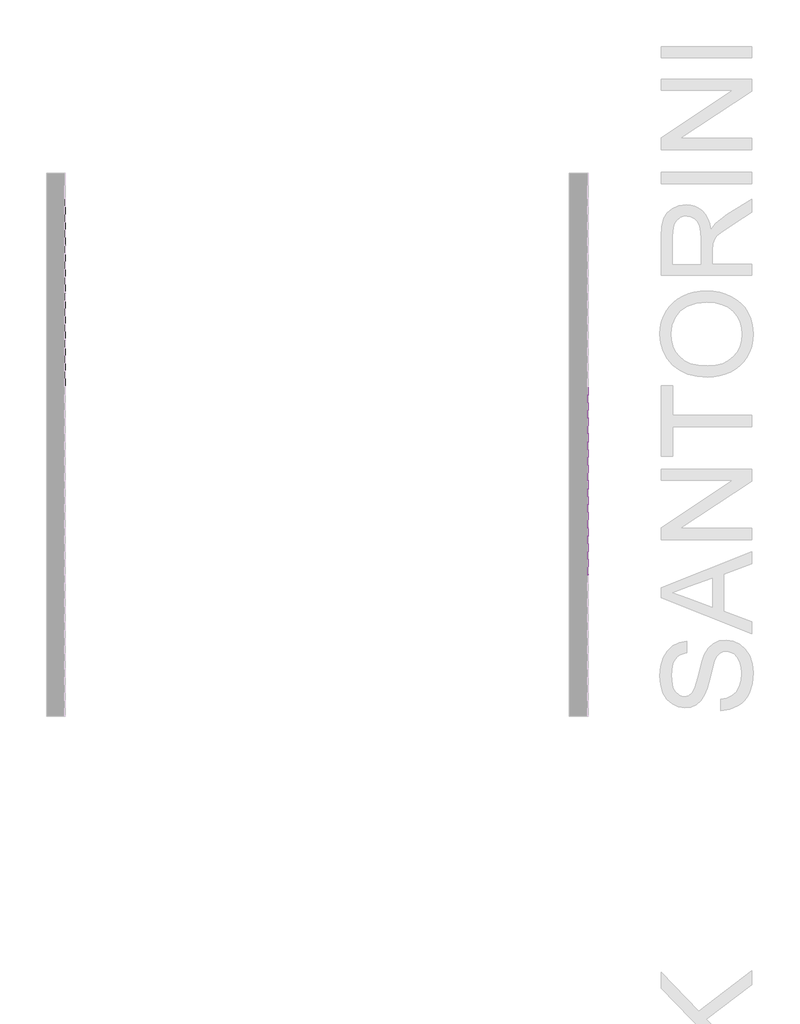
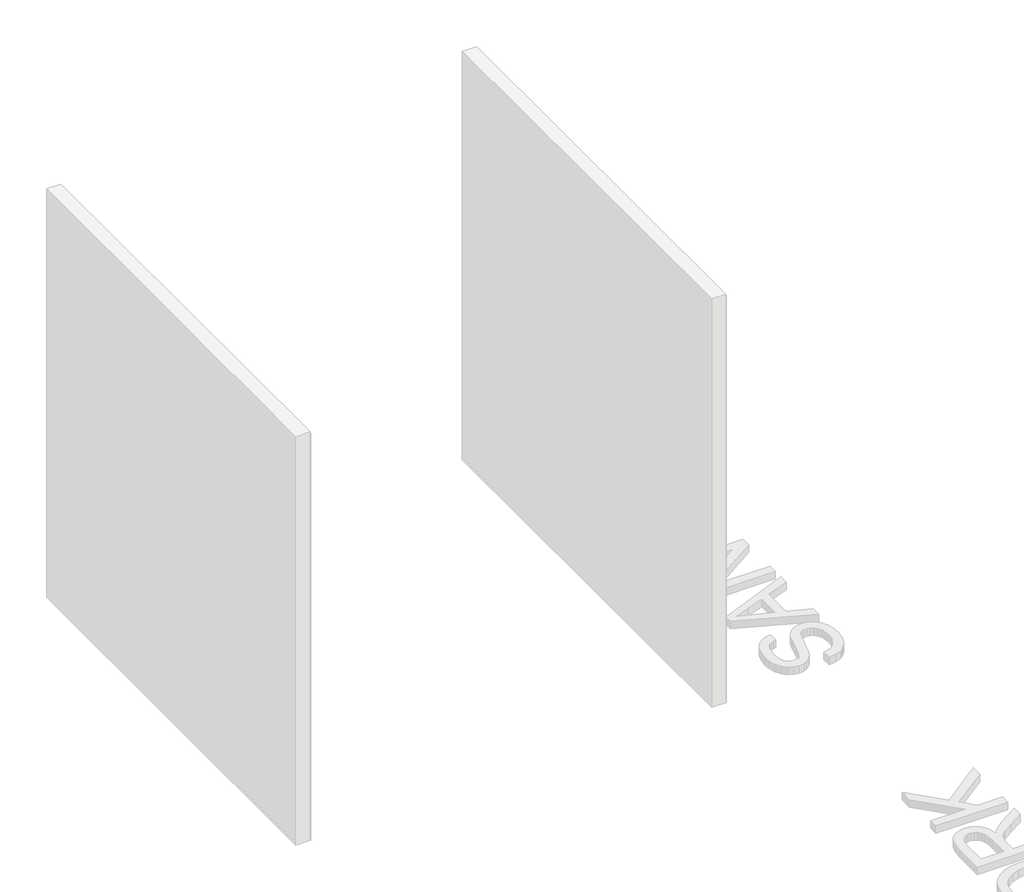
# One storey, part 29 of 45: 147 proxies.
"""IFC4 building model written with IfcOpenShell, lengths in millimetres."""

from ifc_helpers import new_model, si_unit, origin, place, context, project, spatial, transform, mapped, element, save
from components import generic_models_ab0f2c30

model = new_model("IFC4")

# Units and contexts
model_context = context("Model", 3, world=origin())
ifc_project = project(units=[si_unit("LENGTHUNIT", "METRE", prefix="MILLI")], contexts=[model_context])

# Site, building, storey
site = spatial("IfcSite", under=ifc_project)
building = spatial("IfcBuilding", under=site)
storey = spatial("IfcBuildingStorey", under=building, Name="PORTOBELLO - SHOWROOM", Elevation=0.0)

# Proxies
placement = place(None, origin())
generic_models_shape = generic_models_ab0f2c30(model_context)
element("IfcBuildingElementProxy", 1, Name="PBSHOP - HORIZONTES SANTORINI 6,5X23 : SANTORINI", ObjectType="PBSHOP - HORIZONTES SANTORINI 6,5X23 : SANTORINI", at=placement, inside=storey, context=model_context, shape_type="MappedRepresentation", body=[
    mapped(generic_models_shape, transform((69111.8826867, 11896.0312463, 2104.5), x_axis=(0.0, 0.0, 1.0), y_axis=(0.0, -1.0, 0.0), z_axis=(1.0, 0.0, 0.0))),
])
element("IfcBuildingElementProxy", 2, Name="PBSHOP - HORIZONTES SANTORINI 6,5X23 : SANTORINI", ObjectType="PBSHOP - HORIZONTES SANTORINI 6,5X23 : SANTORINI", at=placement, inside=storey, context=model_context, shape_type="MappedRepresentation", body=[
    mapped(generic_models_shape, transform((69111.8826867, 11194.0312463, 2173.5), x_axis=(0.0, 0.0, 1.0), y_axis=(0.0, -1.0, 0.0), z_axis=(1.0, 0.0, 0.0))),
])
element("IfcBuildingElementProxy", 3, Name="PBSHOP - HORIZONTES SANTORINI 6,5X23 : SANTORINI", ObjectType="PBSHOP - HORIZONTES SANTORINI 6,5X23 : SANTORINI", at=placement, inside=storey, context=model_context, shape_type="MappedRepresentation", body=[
    mapped(generic_models_shape, transform((69111.8826867, 11428.0312463, 2173.5), x_axis=(0.0, 0.0, 1.0), y_axis=(0.0, -1.0, 0.0), z_axis=(1.0, 0.0, 0.0))),
])
element("IfcBuildingElementProxy", 4, Name="PBSHOP - HORIZONTES SANTORINI 6,5X23 : SANTORINI", ObjectType="PBSHOP - HORIZONTES SANTORINI 6,5X23 : SANTORINI", at=placement, inside=storey, context=model_context, shape_type="MappedRepresentation", body=[
    mapped(generic_models_shape, transform((69111.8826867, 11662.0312463, 2173.5), x_axis=(0.0, 0.0, 1.0), y_axis=(0.0, -1.0, 0.0), z_axis=(1.0, 0.0, 0.0))),
])
element("IfcBuildingElementProxy", 5, Name="PBSHOP - HORIZONTES SANTORINI 6,5X23 : SANTORINI", ObjectType="PBSHOP - HORIZONTES SANTORINI 6,5X23 : SANTORINI", at=placement, inside=storey, context=model_context, shape_type="MappedRepresentation", body=[
    mapped(generic_models_shape, transform((69111.8826867, 11896.0312463, 2173.5), x_axis=(0.0, 0.0, 1.0), y_axis=(0.0, -1.0, 0.0), z_axis=(1.0, 0.0, 0.0))),
])
element("IfcBuildingElementProxy", 6, Name="PBSHOP - HORIZONTES SANTORINI 6,5X23 : SANTORINI", ObjectType="PBSHOP - HORIZONTES SANTORINI 6,5X23 : SANTORINI", at=placement, inside=storey, context=model_context, shape_type="MappedRepresentation", body=[
    mapped(generic_models_shape, transform((69111.8826867, 11194.0312463, 2242.5), x_axis=(0.0, 0.0, 1.0), y_axis=(0.0, -1.0, 0.0), z_axis=(1.0, 0.0, 0.0))),
])
element("IfcBuildingElementProxy", 7, Name="PBSHOP - HORIZONTES SANTORINI 6,5X23 : SANTORINI", ObjectType="PBSHOP - HORIZONTES SANTORINI 6,5X23 : SANTORINI", at=placement, inside=storey, context=model_context, shape_type="MappedRepresentation", body=[
    mapped(generic_models_shape, transform((69111.8826867, 11428.0312463, 2242.5), x_axis=(0.0, 0.0, 1.0), y_axis=(0.0, -1.0, 0.0), z_axis=(1.0, 0.0, 0.0))),
])
element("IfcBuildingElementProxy", 8, Name="PBSHOP - HORIZONTES SANTORINI 6,5X23 : SANTORINI", ObjectType="PBSHOP - HORIZONTES SANTORINI 6,5X23 : SANTORINI", at=placement, inside=storey, context=model_context, shape_type="MappedRepresentation", body=[
    mapped(generic_models_shape, transform((69111.8826867, 11662.0312463, 2242.5), x_axis=(0.0, 0.0, 1.0), y_axis=(0.0, -1.0, 0.0), z_axis=(1.0, 0.0, 0.0))),
])
element("IfcBuildingElementProxy", 9, Name="PBSHOP - HORIZONTES SANTORINI 6,5X23 : SANTORINI", ObjectType="PBSHOP - HORIZONTES SANTORINI 6,5X23 : SANTORINI", at=placement, inside=storey, context=model_context, shape_type="MappedRepresentation", body=[
    mapped(generic_models_shape, transform((69111.8826867, 11896.0312463, 2242.5), x_axis=(0.0, 0.0, 1.0), y_axis=(0.0, -1.0, 0.0), z_axis=(1.0, 0.0, 0.0))),
])
element("IfcBuildingElementProxy", 10, Name="PBSHOP - HORIZONTES SANTORINI 6,5X23 : SANTORINI", ObjectType="PBSHOP - HORIZONTES SANTORINI 6,5X23 : SANTORINI", at=placement, inside=storey, context=model_context, shape_type="MappedRepresentation", body=[
    mapped(generic_models_shape, transform((69111.8826867, 11194.0312463, 2311.5), x_axis=(0.0, 0.0, 1.0), y_axis=(0.0, -1.0, 0.0), z_axis=(1.0, 0.0, 0.0))),
])
element("IfcBuildingElementProxy", 11, Name="PBSHOP - HORIZONTES SANTORINI 6,5X23 : SANTORINI", ObjectType="PBSHOP - HORIZONTES SANTORINI 6,5X23 : SANTORINI", at=placement, inside=storey, context=model_context, shape_type="MappedRepresentation", body=[
    mapped(generic_models_shape, transform((69111.8826867, 11428.0312463, 2311.5), x_axis=(0.0, 0.0, 1.0), y_axis=(0.0, -1.0, 0.0), z_axis=(1.0, 0.0, 0.0))),
])
element("IfcBuildingElementProxy", 12, Name="PBSHOP - HORIZONTES SANTORINI 6,5X23 : SANTORINI", ObjectType="PBSHOP - HORIZONTES SANTORINI 6,5X23 : SANTORINI", at=placement, inside=storey, context=model_context, shape_type="MappedRepresentation", body=[
    mapped(generic_models_shape, transform((69111.8826867, 11662.0312463, 2311.5), x_axis=(0.0, 0.0, 1.0), y_axis=(0.0, -1.0, 0.0), z_axis=(1.0, 0.0, 0.0))),
])
element("IfcBuildingElementProxy", 13, Name="PBSHOP - HORIZONTES SANTORINI 6,5X23 : SANTORINI", ObjectType="PBSHOP - HORIZONTES SANTORINI 6,5X23 : SANTORINI", at=placement, inside=storey, context=model_context, shape_type="MappedRepresentation", body=[
    mapped(generic_models_shape, transform((69111.8826867, 11896.0312463, 2311.5), x_axis=(0.0, 0.0, 1.0), y_axis=(0.0, -1.0, 0.0), z_axis=(1.0, 0.0, 0.0))),
])
element("IfcBuildingElementProxy", 14, Name="PBSHOP - HORIZONTES SANTORINI 6,5X23 : SANTORINI", ObjectType="PBSHOP - HORIZONTES SANTORINI 6,5X23 : SANTORINI", at=placement, inside=storey, context=model_context, shape_type="MappedRepresentation", body=[
    mapped(generic_models_shape, transform((69111.8826867, 11194.0312463, 2380.5), x_axis=(0.0, 0.0, 1.0), y_axis=(0.0, -1.0, 0.0), z_axis=(1.0, 0.0, 0.0))),
])
element("IfcBuildingElementProxy", 15, Name="PBSHOP - HORIZONTES SANTORINI 6,5X23 : SANTORINI", ObjectType="PBSHOP - HORIZONTES SANTORINI 6,5X23 : SANTORINI", at=placement, inside=storey, context=model_context, shape_type="MappedRepresentation", body=[
    mapped(generic_models_shape, transform((69111.8826867, 11428.0312463, 2380.5), x_axis=(0.0, 0.0, 1.0), y_axis=(0.0, -1.0, 0.0), z_axis=(1.0, 0.0, 0.0))),
])
element("IfcBuildingElementProxy", 16, Name="PBSHOP - HORIZONTES SANTORINI 6,5X23 : SANTORINI", ObjectType="PBSHOP - HORIZONTES SANTORINI 6,5X23 : SANTORINI", at=placement, inside=storey, context=model_context, shape_type="MappedRepresentation", body=[
    mapped(generic_models_shape, transform((69111.8826867, 11662.0312463, 2380.5), x_axis=(0.0, 0.0, 1.0), y_axis=(0.0, -1.0, 0.0), z_axis=(1.0, 0.0, 0.0))),
])
element("IfcBuildingElementProxy", 17, Name="PBSHOP - HORIZONTES SANTORINI 6,5X23 : SANTORINI", ObjectType="PBSHOP - HORIZONTES SANTORINI 6,5X23 : SANTORINI", at=placement, inside=storey, context=model_context, shape_type="MappedRepresentation", body=[
    mapped(generic_models_shape, transform((69111.8826867, 11896.0312463, 2380.5), x_axis=(0.0, 0.0, 1.0), y_axis=(0.0, -1.0, 0.0), z_axis=(1.0, 0.0, 0.0))),
])
element("IfcBuildingElementProxy", 18, Name="PBSHOP - HORIZONTES SANTORINI 6,5X23 : SANTORINI", ObjectType="PBSHOP - HORIZONTES SANTORINI 6,5X23 : SANTORINI", at=placement, inside=storey, context=model_context, shape_type="MappedRepresentation", body=[
    mapped(generic_models_shape, transform((69111.8826867, 11194.0312463, 2449.5), x_axis=(0.0, 0.0, 1.0), y_axis=(0.0, -1.0, 0.0), z_axis=(1.0, 0.0, 0.0))),
])
element("IfcBuildingElementProxy", 19, Name="PBSHOP - HORIZONTES SANTORINI 6,5X23 : SANTORINI", ObjectType="PBSHOP - HORIZONTES SANTORINI 6,5X23 : SANTORINI", at=placement, inside=storey, context=model_context, shape_type="MappedRepresentation", body=[
    mapped(generic_models_shape, transform((69111.8826867, 11428.0312463, 2449.5), x_axis=(0.0, 0.0, 1.0), y_axis=(0.0, -1.0, 0.0), z_axis=(1.0, 0.0, 0.0))),
])
element("IfcBuildingElementProxy", 20, Name="PBSHOP - HORIZONTES SANTORINI 6,5X23 : SANTORINI", ObjectType="PBSHOP - HORIZONTES SANTORINI 6,5X23 : SANTORINI", at=placement, inside=storey, context=model_context, shape_type="MappedRepresentation", body=[
    mapped(generic_models_shape, transform((69111.8826867, 11662.0312463, 2449.5), x_axis=(0.0, 0.0, 1.0), y_axis=(0.0, -1.0, 0.0), z_axis=(1.0, 0.0, 0.0))),
])
element("IfcBuildingElementProxy", 21, Name="PBSHOP - HORIZONTES SANTORINI 6,5X23 : SANTORINI", ObjectType="PBSHOP - HORIZONTES SANTORINI 6,5X23 : SANTORINI", at=placement, inside=storey, context=model_context, shape_type="MappedRepresentation", body=[
    mapped(generic_models_shape, transform((69111.8826867, 11896.0312463, 2449.5), x_axis=(0.0, 0.0, 1.0), y_axis=(0.0, -1.0, 0.0), z_axis=(1.0, 0.0, 0.0))),
])
element("IfcBuildingElementProxy", 22, Name="PBSHOP - HORIZONTES SANTORINI 6,5X23 : SANTORINI", ObjectType="PBSHOP - HORIZONTES SANTORINI 6,5X23 : SANTORINI", at=placement, inside=storey, context=model_context, shape_type="MappedRepresentation", body=[
    mapped(generic_models_shape, transform((69111.8826867, 11194.0312463, 2518.5), x_axis=(0.0, 0.0, 1.0), y_axis=(0.0, -1.0, 0.0), z_axis=(1.0, 0.0, 0.0))),
])
element("IfcBuildingElementProxy", 23, Name="PBSHOP - HORIZONTES SANTORINI 6,5X23 : SANTORINI", ObjectType="PBSHOP - HORIZONTES SANTORINI 6,5X23 : SANTORINI", at=placement, inside=storey, context=model_context, shape_type="MappedRepresentation", body=[
    mapped(generic_models_shape, transform((69111.8826867, 11428.0312463, 2518.5), x_axis=(0.0, 0.0, 1.0), y_axis=(0.0, -1.0, 0.0), z_axis=(1.0, 0.0, 0.0))),
])
element("IfcBuildingElementProxy", 24, Name="PBSHOP - HORIZONTES SANTORINI 6,5X23 : SANTORINI", ObjectType="PBSHOP - HORIZONTES SANTORINI 6,5X23 : SANTORINI", at=placement, inside=storey, context=model_context, shape_type="MappedRepresentation", body=[
    mapped(generic_models_shape, transform((69111.8826867, 11662.0312463, 2518.5), x_axis=(0.0, 0.0, 1.0), y_axis=(0.0, -1.0, 0.0), z_axis=(1.0, 0.0, 0.0))),
])
element("IfcBuildingElementProxy", 25, Name="PBSHOP - HORIZONTES SANTORINI 6,5X23 : SANTORINI", ObjectType="PBSHOP - HORIZONTES SANTORINI 6,5X23 : SANTORINI", at=placement, inside=storey, context=model_context, shape_type="MappedRepresentation", body=[
    mapped(generic_models_shape, transform((69111.8826867, 11896.0312463, 2518.5), x_axis=(0.0, 0.0, 1.0), y_axis=(0.0, -1.0, 0.0), z_axis=(1.0, 0.0, 0.0))),
])
element("IfcBuildingElementProxy", 26, Name="PBSHOP - HORIZONTES SANTORINI 6,5X23 : SANTORINI", ObjectType="PBSHOP - HORIZONTES SANTORINI 6,5X23 : SANTORINI", at=placement, inside=storey, context=model_context, shape_type="MappedRepresentation", body=[
    mapped(generic_models_shape, transform((69111.8826867, 11194.0312463, 2587.5), x_axis=(0.0, 0.0, 1.0), y_axis=(0.0, -1.0, 0.0), z_axis=(1.0, 0.0, 0.0))),
])
element("IfcBuildingElementProxy", 27, Name="PBSHOP - HORIZONTES SANTORINI 6,5X23 : SANTORINI", ObjectType="PBSHOP - HORIZONTES SANTORINI 6,5X23 : SANTORINI", at=placement, inside=storey, context=model_context, shape_type="MappedRepresentation", body=[
    mapped(generic_models_shape, transform((69111.8826867, 11428.0312463, 2587.5), x_axis=(0.0, 0.0, 1.0), y_axis=(0.0, -1.0, 0.0), z_axis=(1.0, 0.0, 0.0))),
])
element("IfcBuildingElementProxy", 28, Name="PBSHOP - HORIZONTES SANTORINI 6,5X23 : SANTORINI", ObjectType="PBSHOP - HORIZONTES SANTORINI 6,5X23 : SANTORINI", at=placement, inside=storey, context=model_context, shape_type="MappedRepresentation", body=[
    mapped(generic_models_shape, transform((69111.8826867, 11662.0312463, 2587.5), x_axis=(0.0, 0.0, 1.0), y_axis=(0.0, -1.0, 0.0), z_axis=(1.0, 0.0, 0.0))),
])
element("IfcBuildingElementProxy", 29, Name="PBSHOP - HORIZONTES SANTORINI 6,5X23 : SANTORINI", ObjectType="PBSHOP - HORIZONTES SANTORINI 6,5X23 : SANTORINI", at=placement, inside=storey, context=model_context, shape_type="MappedRepresentation", body=[
    mapped(generic_models_shape, transform((69111.8826867, 11896.0312463, 2587.5), x_axis=(0.0, 0.0, 1.0), y_axis=(0.0, -1.0, 0.0), z_axis=(1.0, 0.0, 0.0))),
])
element("IfcBuildingElementProxy", 30, Name="PBSHOP - HORIZONTES SANTORINI 6,5X23 : SANTORINI", ObjectType="PBSHOP - HORIZONTES SANTORINI 6,5X23 : SANTORINI", at=placement, inside=storey, context=model_context, shape_type="MappedRepresentation", body=[
    mapped(generic_models_shape, transform((69111.8826867, 11194.0312463, 2656.5), x_axis=(0.0, 0.0, 1.0), y_axis=(0.0, -1.0, 0.0), z_axis=(1.0, 0.0, 0.0))),
])
element("IfcBuildingElementProxy", 31, Name="PBSHOP - HORIZONTES SANTORINI 6,5X23 : SANTORINI", ObjectType="PBSHOP - HORIZONTES SANTORINI 6,5X23 : SANTORINI", at=placement, inside=storey, context=model_context, shape_type="MappedRepresentation", body=[
    mapped(generic_models_shape, transform((69111.8826867, 11428.0312463, 2656.5), x_axis=(0.0, 0.0, 1.0), y_axis=(0.0, -1.0, 0.0), z_axis=(1.0, 0.0, 0.0))),
])
element("IfcBuildingElementProxy", 32, Name="PBSHOP - HORIZONTES SANTORINI 6,5X23 : SANTORINI", ObjectType="PBSHOP - HORIZONTES SANTORINI 6,5X23 : SANTORINI", at=placement, inside=storey, context=model_context, shape_type="MappedRepresentation", body=[
    mapped(generic_models_shape, transform((69111.8826867, 11662.0312463, 2656.5), x_axis=(0.0, 0.0, 1.0), y_axis=(0.0, -1.0, 0.0), z_axis=(1.0, 0.0, 0.0))),
])
element("IfcBuildingElementProxy", 33, Name="PBSHOP - HORIZONTES SANTORINI 6,5X23 : SANTORINI", ObjectType="PBSHOP - HORIZONTES SANTORINI 6,5X23 : SANTORINI", at=placement, inside=storey, context=model_context, shape_type="MappedRepresentation", body=[
    mapped(generic_models_shape, transform((69111.8826867, 11896.0312463, 2656.5), x_axis=(0.0, 0.0, 1.0), y_axis=(0.0, -1.0, 0.0), z_axis=(1.0, 0.0, 0.0))),
])
element("IfcBuildingElementProxy", 34, Name="PBSHOP - HORIZONTES SANTORINI 6,5X23 : SANTORINI ROTAS", ObjectType="PBSHOP - HORIZONTES SANTORINI 6,5X23 : SANTORINI ROTAS", at=placement, inside=storey, context=model_context, shape_type="MappedRepresentation", body=[
    mapped(generic_models_shape, transform((66511.8826867, 12130.0312463, 34.5), x_axis=(0.0, 0.0, 1.0), y_axis=(0.0, -1.0, 0.0), z_axis=(1.0, 0.0, 0.0))),
])
element("IfcBuildingElementProxy", 35, Name="PBSHOP - HORIZONTES SANTORINI 6,5X23 : SANTORINI ROTAS", ObjectType="PBSHOP - HORIZONTES SANTORINI 6,5X23 : SANTORINI ROTAS", at=placement, inside=storey, context=model_context, shape_type="MappedRepresentation", body=[
    mapped(generic_models_shape, transform((66511.8826867, 12364.0312463, 34.5), x_axis=(0.0, 0.0, 1.0), y_axis=(0.0, -1.0, 0.0), z_axis=(1.0, 0.0, 0.0))),
])
element("IfcBuildingElementProxy", 36, Name="PBSHOP - HORIZONTES SANTORINI 6,5X23 : SANTORINI ROTAS", ObjectType="PBSHOP - HORIZONTES SANTORINI 6,5X23 : SANTORINI ROTAS", at=placement, inside=storey, context=model_context, shape_type="MappedRepresentation", body=[
    mapped(generic_models_shape, transform((66511.8826867, 12598.0312463, 34.5), x_axis=(0.0, 0.0, 1.0), y_axis=(0.0, -1.0, 0.0), z_axis=(1.0, 0.0, 0.0))),
])
element("IfcBuildingElementProxy", 37, Name="PBSHOP - HORIZONTES SANTORINI 6,5X23 : SANTORINI ROTAS", ObjectType="PBSHOP - HORIZONTES SANTORINI 6,5X23 : SANTORINI ROTAS", at=placement, inside=storey, context=model_context, shape_type="MappedRepresentation", body=[
    mapped(generic_models_shape, transform((66511.8826867, 12832.0312463, 34.5), x_axis=(0.0, 0.0, 1.0), y_axis=(0.0, -1.0, 0.0), z_axis=(1.0, 0.0, 0.0))),
])
element("IfcBuildingElementProxy", 38, Name="PBSHOP - HORIZONTES SANTORINI 6,5X23 : SANTORINI ROTAS", ObjectType="PBSHOP - HORIZONTES SANTORINI 6,5X23 : SANTORINI ROTAS", at=placement, inside=storey, context=model_context, shape_type="MappedRepresentation", body=[
    mapped(generic_models_shape, transform((66511.8826867, 12130.0312463, 103.5), x_axis=(0.0, 0.0, 1.0), y_axis=(0.0, -1.0, 0.0), z_axis=(1.0, 0.0, 0.0))),
])
element("IfcBuildingElementProxy", 39, Name="PBSHOP - HORIZONTES SANTORINI 6,5X23 : SANTORINI ROTAS", ObjectType="PBSHOP - HORIZONTES SANTORINI 6,5X23 : SANTORINI ROTAS", at=placement, inside=storey, context=model_context, shape_type="MappedRepresentation", body=[
    mapped(generic_models_shape, transform((66511.8826867, 12364.0312463, 103.5), x_axis=(0.0, 0.0, 1.0), y_axis=(0.0, -1.0, 0.0), z_axis=(1.0, 0.0, 0.0))),
])
element("IfcBuildingElementProxy", 40, Name="PBSHOP - HORIZONTES SANTORINI 6,5X23 : SANTORINI ROTAS", ObjectType="PBSHOP - HORIZONTES SANTORINI 6,5X23 : SANTORINI ROTAS", at=placement, inside=storey, context=model_context, shape_type="MappedRepresentation", body=[
    mapped(generic_models_shape, transform((66511.8826867, 12598.0312463, 103.5), x_axis=(0.0, 0.0, 1.0), y_axis=(0.0, -1.0, 0.0), z_axis=(1.0, 0.0, 0.0))),
])
element("IfcBuildingElementProxy", 41, Name="PBSHOP - HORIZONTES SANTORINI 6,5X23 : SANTORINI ROTAS", ObjectType="PBSHOP - HORIZONTES SANTORINI 6,5X23 : SANTORINI ROTAS", at=placement, inside=storey, context=model_context, shape_type="MappedRepresentation", body=[
    mapped(generic_models_shape, transform((66511.8826867, 12832.0312463, 103.5), x_axis=(0.0, 0.0, 1.0), y_axis=(0.0, -1.0, 0.0), z_axis=(1.0, 0.0, 0.0))),
])
element("IfcBuildingElementProxy", 42, Name="PBSHOP - HORIZONTES SANTORINI 6,5X23 : SANTORINI ROTAS", ObjectType="PBSHOP - HORIZONTES SANTORINI 6,5X23 : SANTORINI ROTAS", at=placement, inside=storey, context=model_context, shape_type="MappedRepresentation", body=[
    mapped(generic_models_shape, transform((66511.8826867, 12130.0312463, 172.5), x_axis=(0.0, 0.0, 1.0), y_axis=(0.0, -1.0, 0.0), z_axis=(1.0, 0.0, 0.0))),
])
element("IfcBuildingElementProxy", 43, Name="PBSHOP - HORIZONTES SANTORINI 6,5X23 : SANTORINI ROTAS", ObjectType="PBSHOP - HORIZONTES SANTORINI 6,5X23 : SANTORINI ROTAS", at=placement, inside=storey, context=model_context, shape_type="MappedRepresentation", body=[
    mapped(generic_models_shape, transform((66511.8826867, 12364.0312463, 172.5), x_axis=(0.0, 0.0, 1.0), y_axis=(0.0, -1.0, 0.0), z_axis=(1.0, 0.0, 0.0))),
])
element("IfcBuildingElementProxy", 44, Name="PBSHOP - HORIZONTES SANTORINI 6,5X23 : SANTORINI ROTAS", ObjectType="PBSHOP - HORIZONTES SANTORINI 6,5X23 : SANTORINI ROTAS", at=placement, inside=storey, context=model_context, shape_type="MappedRepresentation", body=[
    mapped(generic_models_shape, transform((66511.8826867, 12598.0312463, 172.5), x_axis=(0.0, 0.0, 1.0), y_axis=(0.0, -1.0, 0.0), z_axis=(1.0, 0.0, 0.0))),
])
element("IfcBuildingElementProxy", 45, Name="PBSHOP - HORIZONTES SANTORINI 6,5X23 : SANTORINI ROTAS", ObjectType="PBSHOP - HORIZONTES SANTORINI 6,5X23 : SANTORINI ROTAS", at=placement, inside=storey, context=model_context, shape_type="MappedRepresentation", body=[
    mapped(generic_models_shape, transform((66511.8826867, 12832.0312463, 172.5), x_axis=(0.0, 0.0, 1.0), y_axis=(0.0, -1.0, 0.0), z_axis=(1.0, 0.0, 0.0))),
])
element("IfcBuildingElementProxy", 46, Name="PBSHOP - HORIZONTES SANTORINI 6,5X23 : SANTORINI ROTAS", ObjectType="PBSHOP - HORIZONTES SANTORINI 6,5X23 : SANTORINI ROTAS", at=placement, inside=storey, context=model_context, shape_type="MappedRepresentation", body=[
    mapped(generic_models_shape, transform((66511.8826867, 12130.0312463, 241.5), x_axis=(0.0, 0.0, 1.0), y_axis=(0.0, -1.0, 0.0), z_axis=(1.0, 0.0, 0.0))),
])
element("IfcBuildingElementProxy", 47, Name="PBSHOP - HORIZONTES SANTORINI 6,5X23 : SANTORINI ROTAS", ObjectType="PBSHOP - HORIZONTES SANTORINI 6,5X23 : SANTORINI ROTAS", at=placement, inside=storey, context=model_context, shape_type="MappedRepresentation", body=[
    mapped(generic_models_shape, transform((66511.8826867, 12364.0312463, 241.5), x_axis=(0.0, 0.0, 1.0), y_axis=(0.0, -1.0, 0.0), z_axis=(1.0, 0.0, 0.0))),
])
element("IfcBuildingElementProxy", 48, Name="PBSHOP - HORIZONTES SANTORINI 6,5X23 : SANTORINI ROTAS", ObjectType="PBSHOP - HORIZONTES SANTORINI 6,5X23 : SANTORINI ROTAS", at=placement, inside=storey, context=model_context, shape_type="MappedRepresentation", body=[
    mapped(generic_models_shape, transform((66511.8826867, 12598.0312463, 241.5), x_axis=(0.0, 0.0, 1.0), y_axis=(0.0, -1.0, 0.0), z_axis=(1.0, 0.0, 0.0))),
])
element("IfcBuildingElementProxy", 49, Name="PBSHOP - HORIZONTES SANTORINI 6,5X23 : SANTORINI ROTAS", ObjectType="PBSHOP - HORIZONTES SANTORINI 6,5X23 : SANTORINI ROTAS", at=placement, inside=storey, context=model_context, shape_type="MappedRepresentation", body=[
    mapped(generic_models_shape, transform((66511.8826867, 12832.0312463, 241.5), x_axis=(0.0, 0.0, 1.0), y_axis=(0.0, -1.0, 0.0), z_axis=(1.0, 0.0, 0.0))),
])
element("IfcBuildingElementProxy", 50, Name="PBSHOP - HORIZONTES SANTORINI 6,5X23 : SANTORINI ROTAS", ObjectType="PBSHOP - HORIZONTES SANTORINI 6,5X23 : SANTORINI ROTAS", at=placement, inside=storey, context=model_context, shape_type="MappedRepresentation", body=[
    mapped(generic_models_shape, transform((66511.8826867, 12130.0312463, 310.5), x_axis=(0.0, 0.0, 1.0), y_axis=(0.0, -1.0, 0.0), z_axis=(1.0, 0.0, 0.0))),
])
element("IfcBuildingElementProxy", 51, Name="PBSHOP - HORIZONTES SANTORINI 6,5X23 : SANTORINI ROTAS", ObjectType="PBSHOP - HORIZONTES SANTORINI 6,5X23 : SANTORINI ROTAS", at=placement, inside=storey, context=model_context, shape_type="MappedRepresentation", body=[
    mapped(generic_models_shape, transform((66511.8826867, 12364.0312463, 310.5), x_axis=(0.0, 0.0, 1.0), y_axis=(0.0, -1.0, 0.0), z_axis=(1.0, 0.0, 0.0))),
])
element("IfcBuildingElementProxy", 52, Name="PBSHOP - HORIZONTES SANTORINI 6,5X23 : SANTORINI ROTAS", ObjectType="PBSHOP - HORIZONTES SANTORINI 6,5X23 : SANTORINI ROTAS", at=placement, inside=storey, context=model_context, shape_type="MappedRepresentation", body=[
    mapped(generic_models_shape, transform((66511.8826867, 12598.0312463, 310.5), x_axis=(0.0, 0.0, 1.0), y_axis=(0.0, -1.0, 0.0), z_axis=(1.0, 0.0, 0.0))),
])
element("IfcBuildingElementProxy", 53, Name="PBSHOP - HORIZONTES SANTORINI 6,5X23 : SANTORINI ROTAS", ObjectType="PBSHOP - HORIZONTES SANTORINI 6,5X23 : SANTORINI ROTAS", at=placement, inside=storey, context=model_context, shape_type="MappedRepresentation", body=[
    mapped(generic_models_shape, transform((66511.8826867, 12832.0312463, 310.5), x_axis=(0.0, 0.0, 1.0), y_axis=(0.0, -1.0, 0.0), z_axis=(1.0, 0.0, 0.0))),
])
element("IfcBuildingElementProxy", 54, Name="PBSHOP - HORIZONTES SANTORINI 6,5X23 : SANTORINI ROTAS", ObjectType="PBSHOP - HORIZONTES SANTORINI 6,5X23 : SANTORINI ROTAS", at=placement, inside=storey, context=model_context, shape_type="MappedRepresentation", body=[
    mapped(generic_models_shape, transform((66511.8826867, 12130.0312463, 379.5), x_axis=(0.0, 0.0, 1.0), y_axis=(0.0, -1.0, 0.0), z_axis=(1.0, 0.0, 0.0))),
])
element("IfcBuildingElementProxy", 55, Name="PBSHOP - HORIZONTES SANTORINI 6,5X23 : SANTORINI ROTAS", ObjectType="PBSHOP - HORIZONTES SANTORINI 6,5X23 : SANTORINI ROTAS", at=placement, inside=storey, context=model_context, shape_type="MappedRepresentation", body=[
    mapped(generic_models_shape, transform((66511.8826867, 12364.0312463, 379.5), x_axis=(0.0, 0.0, 1.0), y_axis=(0.0, -1.0, 0.0), z_axis=(1.0, 0.0, 0.0))),
])
element("IfcBuildingElementProxy", 56, Name="PBSHOP - HORIZONTES SANTORINI 6,5X23 : SANTORINI ROTAS", ObjectType="PBSHOP - HORIZONTES SANTORINI 6,5X23 : SANTORINI ROTAS", at=placement, inside=storey, context=model_context, shape_type="MappedRepresentation", body=[
    mapped(generic_models_shape, transform((66511.8826867, 12598.0312463, 379.5), x_axis=(0.0, 0.0, 1.0), y_axis=(0.0, -1.0, 0.0), z_axis=(1.0, 0.0, 0.0))),
])
element("IfcBuildingElementProxy", 57, Name="PBSHOP - HORIZONTES SANTORINI 6,5X23 : SANTORINI ROTAS", ObjectType="PBSHOP - HORIZONTES SANTORINI 6,5X23 : SANTORINI ROTAS", at=placement, inside=storey, context=model_context, shape_type="MappedRepresentation", body=[
    mapped(generic_models_shape, transform((66511.8826867, 12832.0312463, 379.5), x_axis=(0.0, 0.0, 1.0), y_axis=(0.0, -1.0, 0.0), z_axis=(1.0, 0.0, 0.0))),
])
element("IfcBuildingElementProxy", 58, Name="PBSHOP - HORIZONTES SANTORINI 6,5X23 : SANTORINI ROTAS", ObjectType="PBSHOP - HORIZONTES SANTORINI 6,5X23 : SANTORINI ROTAS", at=placement, inside=storey, context=model_context, shape_type="MappedRepresentation", body=[
    mapped(generic_models_shape, transform((66511.8826867, 12130.0312463, 448.5), x_axis=(0.0, 0.0, 1.0), y_axis=(0.0, -1.0, 0.0), z_axis=(1.0, 0.0, 0.0))),
])
element("IfcBuildingElementProxy", 59, Name="PBSHOP - HORIZONTES SANTORINI 6,5X23 : SANTORINI ROTAS", ObjectType="PBSHOP - HORIZONTES SANTORINI 6,5X23 : SANTORINI ROTAS", at=placement, inside=storey, context=model_context, shape_type="MappedRepresentation", body=[
    mapped(generic_models_shape, transform((66511.8826867, 12364.0312463, 448.5), x_axis=(0.0, 0.0, 1.0), y_axis=(0.0, -1.0, 0.0), z_axis=(1.0, 0.0, 0.0))),
])
element("IfcBuildingElementProxy", 60, Name="PBSHOP - HORIZONTES SANTORINI 6,5X23 : SANTORINI ROTAS", ObjectType="PBSHOP - HORIZONTES SANTORINI 6,5X23 : SANTORINI ROTAS", at=placement, inside=storey, context=model_context, shape_type="MappedRepresentation", body=[
    mapped(generic_models_shape, transform((66511.8826867, 12598.0312463, 448.5), x_axis=(0.0, 0.0, 1.0), y_axis=(0.0, -1.0, 0.0), z_axis=(1.0, 0.0, 0.0))),
])
element("IfcBuildingElementProxy", 61, Name="PBSHOP - HORIZONTES SANTORINI 6,5X23 : SANTORINI ROTAS", ObjectType="PBSHOP - HORIZONTES SANTORINI 6,5X23 : SANTORINI ROTAS", at=placement, inside=storey, context=model_context, shape_type="MappedRepresentation", body=[
    mapped(generic_models_shape, transform((66511.8826867, 12832.0312463, 448.5), x_axis=(0.0, 0.0, 1.0), y_axis=(0.0, -1.0, 0.0), z_axis=(1.0, 0.0, 0.0))),
])
element("IfcBuildingElementProxy", 62, Name="PBSHOP - HORIZONTES SANTORINI 6,5X23 : SANTORINI ROTAS", ObjectType="PBSHOP - HORIZONTES SANTORINI 6,5X23 : SANTORINI ROTAS", at=placement, inside=storey, context=model_context, shape_type="MappedRepresentation", body=[
    mapped(generic_models_shape, transform((66511.8826867, 12130.0312463, 517.5), x_axis=(0.0, 0.0, 1.0), y_axis=(0.0, -1.0, 0.0), z_axis=(1.0, 0.0, 0.0))),
])
element("IfcBuildingElementProxy", 63, Name="PBSHOP - HORIZONTES SANTORINI 6,5X23 : SANTORINI ROTAS", ObjectType="PBSHOP - HORIZONTES SANTORINI 6,5X23 : SANTORINI ROTAS", at=placement, inside=storey, context=model_context, shape_type="MappedRepresentation", body=[
    mapped(generic_models_shape, transform((66511.8826867, 12364.0312463, 517.5), x_axis=(0.0, 0.0, 1.0), y_axis=(0.0, -1.0, 0.0), z_axis=(1.0, 0.0, 0.0))),
])
element("IfcBuildingElementProxy", 64, Name="PBSHOP - HORIZONTES SANTORINI 6,5X23 : SANTORINI ROTAS", ObjectType="PBSHOP - HORIZONTES SANTORINI 6,5X23 : SANTORINI ROTAS", at=placement, inside=storey, context=model_context, shape_type="MappedRepresentation", body=[
    mapped(generic_models_shape, transform((66511.8826867, 12598.0312463, 517.5), x_axis=(0.0, 0.0, 1.0), y_axis=(0.0, -1.0, 0.0), z_axis=(1.0, 0.0, 0.0))),
])
element("IfcBuildingElementProxy", 65, Name="PBSHOP - HORIZONTES SANTORINI 6,5X23 : SANTORINI ROTAS", ObjectType="PBSHOP - HORIZONTES SANTORINI 6,5X23 : SANTORINI ROTAS", at=placement, inside=storey, context=model_context, shape_type="MappedRepresentation", body=[
    mapped(generic_models_shape, transform((66511.8826867, 12832.0312463, 517.5), x_axis=(0.0, 0.0, 1.0), y_axis=(0.0, -1.0, 0.0), z_axis=(1.0, 0.0, 0.0))),
])
element("IfcBuildingElementProxy", 66, Name="PBSHOP - HORIZONTES SANTORINI 6,5X23 : SANTORINI ROTAS", ObjectType="PBSHOP - HORIZONTES SANTORINI 6,5X23 : SANTORINI ROTAS", at=placement, inside=storey, context=model_context, shape_type="MappedRepresentation", body=[
    mapped(generic_models_shape, transform((66511.8826867, 12130.0312463, 586.5), x_axis=(0.0, 0.0, 1.0), y_axis=(0.0, -1.0, 0.0), z_axis=(1.0, 0.0, 0.0))),
])
element("IfcBuildingElementProxy", 67, Name="PBSHOP - HORIZONTES SANTORINI 6,5X23 : SANTORINI ROTAS", ObjectType="PBSHOP - HORIZONTES SANTORINI 6,5X23 : SANTORINI ROTAS", at=placement, inside=storey, context=model_context, shape_type="MappedRepresentation", body=[
    mapped(generic_models_shape, transform((66511.8826867, 12364.0312463, 586.5), x_axis=(0.0, 0.0, 1.0), y_axis=(0.0, -1.0, 0.0), z_axis=(1.0, 0.0, 0.0))),
])
element("IfcBuildingElementProxy", 68, Name="PBSHOP - HORIZONTES SANTORINI 6,5X23 : SANTORINI ROTAS", ObjectType="PBSHOP - HORIZONTES SANTORINI 6,5X23 : SANTORINI ROTAS", at=placement, inside=storey, context=model_context, shape_type="MappedRepresentation", body=[
    mapped(generic_models_shape, transform((66511.8826867, 12598.0312463, 586.5), x_axis=(0.0, 0.0, 1.0), y_axis=(0.0, -1.0, 0.0), z_axis=(1.0, 0.0, 0.0))),
])
element("IfcBuildingElementProxy", 69, Name="PBSHOP - HORIZONTES SANTORINI 6,5X23 : SANTORINI ROTAS", ObjectType="PBSHOP - HORIZONTES SANTORINI 6,5X23 : SANTORINI ROTAS", at=placement, inside=storey, context=model_context, shape_type="MappedRepresentation", body=[
    mapped(generic_models_shape, transform((66511.8826867, 12832.0312463, 586.5), x_axis=(0.0, 0.0, 1.0), y_axis=(0.0, -1.0, 0.0), z_axis=(1.0, 0.0, 0.0))),
])
element("IfcBuildingElementProxy", 70, Name="PBSHOP - HORIZONTES SANTORINI 6,5X23 : SANTORINI ROTAS", ObjectType="PBSHOP - HORIZONTES SANTORINI 6,5X23 : SANTORINI ROTAS", at=placement, inside=storey, context=model_context, shape_type="MappedRepresentation", body=[
    mapped(generic_models_shape, transform((66511.8826867, 12130.0312463, 655.5), x_axis=(0.0, 0.0, 1.0), y_axis=(0.0, -1.0, 0.0), z_axis=(1.0, 0.0, 0.0))),
])
element("IfcBuildingElementProxy", 71, Name="PBSHOP - HORIZONTES SANTORINI 6,5X23 : SANTORINI ROTAS", ObjectType="PBSHOP - HORIZONTES SANTORINI 6,5X23 : SANTORINI ROTAS", at=placement, inside=storey, context=model_context, shape_type="MappedRepresentation", body=[
    mapped(generic_models_shape, transform((66511.8826867, 12364.0312463, 655.5), x_axis=(0.0, 0.0, 1.0), y_axis=(0.0, -1.0, 0.0), z_axis=(1.0, 0.0, 0.0))),
])
element("IfcBuildingElementProxy", 72, Name="PBSHOP - HORIZONTES SANTORINI 6,5X23 : SANTORINI ROTAS", ObjectType="PBSHOP - HORIZONTES SANTORINI 6,5X23 : SANTORINI ROTAS", at=placement, inside=storey, context=model_context, shape_type="MappedRepresentation", body=[
    mapped(generic_models_shape, transform((66511.8826867, 12598.0312463, 655.5), x_axis=(0.0, 0.0, 1.0), y_axis=(0.0, -1.0, 0.0), z_axis=(1.0, 0.0, 0.0))),
])
element("IfcBuildingElementProxy", 73, Name="PBSHOP - HORIZONTES SANTORINI 6,5X23 : SANTORINI ROTAS", ObjectType="PBSHOP - HORIZONTES SANTORINI 6,5X23 : SANTORINI ROTAS", at=placement, inside=storey, context=model_context, shape_type="MappedRepresentation", body=[
    mapped(generic_models_shape, transform((66511.8826867, 12832.0312463, 655.5), x_axis=(0.0, 0.0, 1.0), y_axis=(0.0, -1.0, 0.0), z_axis=(1.0, 0.0, 0.0))),
])
element("IfcBuildingElementProxy", 74, Name="PBSHOP - HORIZONTES SANTORINI 6,5X23 : SANTORINI ROTAS", ObjectType="PBSHOP - HORIZONTES SANTORINI 6,5X23 : SANTORINI ROTAS", at=placement, inside=storey, context=model_context, shape_type="MappedRepresentation", body=[
    mapped(generic_models_shape, transform((66511.8826867, 12130.0312463, 724.5), x_axis=(0.0, 0.0, 1.0), y_axis=(0.0, -1.0, 0.0), z_axis=(1.0, 0.0, 0.0))),
])
element("IfcBuildingElementProxy", 75, Name="PBSHOP - HORIZONTES SANTORINI 6,5X23 : SANTORINI ROTAS", ObjectType="PBSHOP - HORIZONTES SANTORINI 6,5X23 : SANTORINI ROTAS", at=placement, inside=storey, context=model_context, shape_type="MappedRepresentation", body=[
    mapped(generic_models_shape, transform((66511.8826867, 12364.0312463, 724.5), x_axis=(0.0, 0.0, 1.0), y_axis=(0.0, -1.0, 0.0), z_axis=(1.0, 0.0, 0.0))),
])
element("IfcBuildingElementProxy", 76, Name="PBSHOP - HORIZONTES SANTORINI 6,5X23 : SANTORINI ROTAS", ObjectType="PBSHOP - HORIZONTES SANTORINI 6,5X23 : SANTORINI ROTAS", at=placement, inside=storey, context=model_context, shape_type="MappedRepresentation", body=[
    mapped(generic_models_shape, transform((66511.8826867, 12598.0312463, 724.5), x_axis=(0.0, 0.0, 1.0), y_axis=(0.0, -1.0, 0.0), z_axis=(1.0, 0.0, 0.0))),
])
element("IfcBuildingElementProxy", 77, Name="PBSHOP - HORIZONTES SANTORINI 6,5X23 : SANTORINI ROTAS", ObjectType="PBSHOP - HORIZONTES SANTORINI 6,5X23 : SANTORINI ROTAS", at=placement, inside=storey, context=model_context, shape_type="MappedRepresentation", body=[
    mapped(generic_models_shape, transform((66511.8826867, 12832.0312463, 724.5), x_axis=(0.0, 0.0, 1.0), y_axis=(0.0, -1.0, 0.0), z_axis=(1.0, 0.0, 0.0))),
])
element("IfcBuildingElementProxy", 78, Name="PBSHOP - HORIZONTES SANTORINI 6,5X23 : SANTORINI ROTAS", ObjectType="PBSHOP - HORIZONTES SANTORINI 6,5X23 : SANTORINI ROTAS", at=placement, inside=storey, context=model_context, shape_type="MappedRepresentation", body=[
    mapped(generic_models_shape, transform((66511.8826867, 12130.0312463, 793.5), x_axis=(0.0, 0.0, 1.0), y_axis=(0.0, -1.0, 0.0), z_axis=(1.0, 0.0, 0.0))),
])
element("IfcBuildingElementProxy", 79, Name="PBSHOP - HORIZONTES SANTORINI 6,5X23 : SANTORINI ROTAS", ObjectType="PBSHOP - HORIZONTES SANTORINI 6,5X23 : SANTORINI ROTAS", at=placement, inside=storey, context=model_context, shape_type="MappedRepresentation", body=[
    mapped(generic_models_shape, transform((66511.8826867, 12364.0312463, 793.5), x_axis=(0.0, 0.0, 1.0), y_axis=(0.0, -1.0, 0.0), z_axis=(1.0, 0.0, 0.0))),
])
element("IfcBuildingElementProxy", 80, Name="PBSHOP - HORIZONTES SANTORINI 6,5X23 : SANTORINI ROTAS", ObjectType="PBSHOP - HORIZONTES SANTORINI 6,5X23 : SANTORINI ROTAS", at=placement, inside=storey, context=model_context, shape_type="MappedRepresentation", body=[
    mapped(generic_models_shape, transform((66511.8826867, 12598.0312463, 793.5), x_axis=(0.0, 0.0, 1.0), y_axis=(0.0, -1.0, 0.0), z_axis=(1.0, 0.0, 0.0))),
])
element("IfcBuildingElementProxy", 81, Name="PBSHOP - HORIZONTES SANTORINI 6,5X23 : SANTORINI ROTAS", ObjectType="PBSHOP - HORIZONTES SANTORINI 6,5X23 : SANTORINI ROTAS", at=placement, inside=storey, context=model_context, shape_type="MappedRepresentation", body=[
    mapped(generic_models_shape, transform((66511.8826867, 12832.0312463, 793.5), x_axis=(0.0, 0.0, 1.0), y_axis=(0.0, -1.0, 0.0), z_axis=(1.0, 0.0, 0.0))),
])
element("IfcBuildingElementProxy", 82, Name="PBSHOP - HORIZONTES SANTORINI 6,5X23 : SANTORINI ROTAS", ObjectType="PBSHOP - HORIZONTES SANTORINI 6,5X23 : SANTORINI ROTAS", at=placement, inside=storey, context=model_context, shape_type="MappedRepresentation", body=[
    mapped(generic_models_shape, transform((66511.8826867, 12130.0312463, 862.5), x_axis=(0.0, 0.0, 1.0), y_axis=(0.0, -1.0, 0.0), z_axis=(1.0, 0.0, 0.0))),
])
element("IfcBuildingElementProxy", 83, Name="PBSHOP - HORIZONTES SANTORINI 6,5X23 : SANTORINI ROTAS", ObjectType="PBSHOP - HORIZONTES SANTORINI 6,5X23 : SANTORINI ROTAS", at=placement, inside=storey, context=model_context, shape_type="MappedRepresentation", body=[
    mapped(generic_models_shape, transform((66511.8826867, 12364.0312463, 862.5), x_axis=(0.0, 0.0, 1.0), y_axis=(0.0, -1.0, 0.0), z_axis=(1.0, 0.0, 0.0))),
])
element("IfcBuildingElementProxy", 84, Name="PBSHOP - HORIZONTES SANTORINI 6,5X23 : SANTORINI ROTAS", ObjectType="PBSHOP - HORIZONTES SANTORINI 6,5X23 : SANTORINI ROTAS", at=placement, inside=storey, context=model_context, shape_type="MappedRepresentation", body=[
    mapped(generic_models_shape, transform((66511.8826867, 12598.0312463, 862.5), x_axis=(0.0, 0.0, 1.0), y_axis=(0.0, -1.0, 0.0), z_axis=(1.0, 0.0, 0.0))),
])
element("IfcBuildingElementProxy", 85, Name="PBSHOP - HORIZONTES SANTORINI 6,5X23 : SANTORINI ROTAS", ObjectType="PBSHOP - HORIZONTES SANTORINI 6,5X23 : SANTORINI ROTAS", at=placement, inside=storey, context=model_context, shape_type="MappedRepresentation", body=[
    mapped(generic_models_shape, transform((66511.8826867, 12832.0312463, 862.5), x_axis=(0.0, 0.0, 1.0), y_axis=(0.0, -1.0, 0.0), z_axis=(1.0, 0.0, 0.0))),
])
element("IfcBuildingElementProxy", 86, Name="PBSHOP - HORIZONTES SANTORINI 6,5X23 : SANTORINI ROTAS", ObjectType="PBSHOP - HORIZONTES SANTORINI 6,5X23 : SANTORINI ROTAS", at=placement, inside=storey, context=model_context, shape_type="MappedRepresentation", body=[
    mapped(generic_models_shape, transform((66511.8826867, 12130.0312463, 931.5), x_axis=(0.0, 0.0, 1.0), y_axis=(0.0, -1.0, 0.0), z_axis=(1.0, 0.0, 0.0))),
])
element("IfcBuildingElementProxy", 87, Name="PBSHOP - HORIZONTES SANTORINI 6,5X23 : SANTORINI ROTAS", ObjectType="PBSHOP - HORIZONTES SANTORINI 6,5X23 : SANTORINI ROTAS", at=placement, inside=storey, context=model_context, shape_type="MappedRepresentation", body=[
    mapped(generic_models_shape, transform((66511.8826867, 12364.0312463, 931.5), x_axis=(0.0, 0.0, 1.0), y_axis=(0.0, -1.0, 0.0), z_axis=(1.0, 0.0, 0.0))),
])
element("IfcBuildingElementProxy", 88, Name="PBSHOP - HORIZONTES SANTORINI 6,5X23 : SANTORINI ROTAS", ObjectType="PBSHOP - HORIZONTES SANTORINI 6,5X23 : SANTORINI ROTAS", at=placement, inside=storey, context=model_context, shape_type="MappedRepresentation", body=[
    mapped(generic_models_shape, transform((66511.8826867, 12598.0312463, 931.5), x_axis=(0.0, 0.0, 1.0), y_axis=(0.0, -1.0, 0.0), z_axis=(1.0, 0.0, 0.0))),
])
element("IfcBuildingElementProxy", 89, Name="PBSHOP - HORIZONTES SANTORINI 6,5X23 : SANTORINI ROTAS", ObjectType="PBSHOP - HORIZONTES SANTORINI 6,5X23 : SANTORINI ROTAS", at=placement, inside=storey, context=model_context, shape_type="MappedRepresentation", body=[
    mapped(generic_models_shape, transform((66511.8826867, 12832.0312463, 931.5), x_axis=(0.0, 0.0, 1.0), y_axis=(0.0, -1.0, 0.0), z_axis=(1.0, 0.0, 0.0))),
])
element("IfcBuildingElementProxy", 90, Name="PBSHOP - HORIZONTES SANTORINI 6,5X23 : SANTORINI ROTAS", ObjectType="PBSHOP - HORIZONTES SANTORINI 6,5X23 : SANTORINI ROTAS", at=placement, inside=storey, context=model_context, shape_type="MappedRepresentation", body=[
    mapped(generic_models_shape, transform((66511.8826867, 12130.0312463, 1000.5), x_axis=(0.0, 0.0, 1.0), y_axis=(0.0, -1.0, 0.0), z_axis=(1.0, 0.0, 0.0))),
])
element("IfcBuildingElementProxy", 91, Name="PBSHOP - HORIZONTES SANTORINI 6,5X23 : SANTORINI ROTAS", ObjectType="PBSHOP - HORIZONTES SANTORINI 6,5X23 : SANTORINI ROTAS", at=placement, inside=storey, context=model_context, shape_type="MappedRepresentation", body=[
    mapped(generic_models_shape, transform((66511.8826867, 12364.0312463, 1000.5), x_axis=(0.0, 0.0, 1.0), y_axis=(0.0, -1.0, 0.0), z_axis=(1.0, 0.0, 0.0))),
])
element("IfcBuildingElementProxy", 92, Name="PBSHOP - HORIZONTES SANTORINI 6,5X23 : SANTORINI ROTAS", ObjectType="PBSHOP - HORIZONTES SANTORINI 6,5X23 : SANTORINI ROTAS", at=placement, inside=storey, context=model_context, shape_type="MappedRepresentation", body=[
    mapped(generic_models_shape, transform((66511.8826867, 12598.0312463, 1000.5), x_axis=(0.0, 0.0, 1.0), y_axis=(0.0, -1.0, 0.0), z_axis=(1.0, 0.0, 0.0))),
])
element("IfcBuildingElementProxy", 93, Name="PBSHOP - HORIZONTES SANTORINI 6,5X23 : SANTORINI ROTAS", ObjectType="PBSHOP - HORIZONTES SANTORINI 6,5X23 : SANTORINI ROTAS", at=placement, inside=storey, context=model_context, shape_type="MappedRepresentation", body=[
    mapped(generic_models_shape, transform((66511.8826867, 12832.0312463, 1000.5), x_axis=(0.0, 0.0, 1.0), y_axis=(0.0, -1.0, 0.0), z_axis=(1.0, 0.0, 0.0))),
])
element("IfcBuildingElementProxy", 94, Name="PBSHOP - HORIZONTES SANTORINI 6,5X23 : SANTORINI ROTAS", ObjectType="PBSHOP - HORIZONTES SANTORINI 6,5X23 : SANTORINI ROTAS", at=placement, inside=storey, context=model_context, shape_type="MappedRepresentation", body=[
    mapped(generic_models_shape, transform((66511.8826867, 12130.0312463, 1069.5), x_axis=(0.0, 0.0, 1.0), y_axis=(0.0, -1.0, 0.0), z_axis=(1.0, 0.0, 0.0))),
])
element("IfcBuildingElementProxy", 95, Name="PBSHOP - HORIZONTES SANTORINI 6,5X23 : SANTORINI ROTAS", ObjectType="PBSHOP - HORIZONTES SANTORINI 6,5X23 : SANTORINI ROTAS", at=placement, inside=storey, context=model_context, shape_type="MappedRepresentation", body=[
    mapped(generic_models_shape, transform((66511.8826867, 12364.0312463, 1069.5), x_axis=(0.0, 0.0, 1.0), y_axis=(0.0, -1.0, 0.0), z_axis=(1.0, 0.0, 0.0))),
])
element("IfcBuildingElementProxy", 96, Name="PBSHOP - HORIZONTES SANTORINI 6,5X23 : SANTORINI ROTAS", ObjectType="PBSHOP - HORIZONTES SANTORINI 6,5X23 : SANTORINI ROTAS", at=placement, inside=storey, context=model_context, shape_type="MappedRepresentation", body=[
    mapped(generic_models_shape, transform((66511.8826867, 12598.0312463, 1069.5), x_axis=(0.0, 0.0, 1.0), y_axis=(0.0, -1.0, 0.0), z_axis=(1.0, 0.0, 0.0))),
])
element("IfcBuildingElementProxy", 97, Name="PBSHOP - HORIZONTES SANTORINI 6,5X23 : SANTORINI ROTAS", ObjectType="PBSHOP - HORIZONTES SANTORINI 6,5X23 : SANTORINI ROTAS", at=placement, inside=storey, context=model_context, shape_type="MappedRepresentation", body=[
    mapped(generic_models_shape, transform((66511.8826867, 12832.0312463, 1069.5), x_axis=(0.0, 0.0, 1.0), y_axis=(0.0, -1.0, 0.0), z_axis=(1.0, 0.0, 0.0))),
])
element("IfcBuildingElementProxy", 98, Name="PBSHOP - HORIZONTES SANTORINI 6,5X23 : SANTORINI ROTAS", ObjectType="PBSHOP - HORIZONTES SANTORINI 6,5X23 : SANTORINI ROTAS", at=placement, inside=storey, context=model_context, shape_type="MappedRepresentation", body=[
    mapped(generic_models_shape, transform((66511.8826867, 12130.0312463, 1138.5), x_axis=(0.0, 0.0, 1.0), y_axis=(0.0, -1.0, 0.0), z_axis=(1.0, 0.0, 0.0))),
])
element("IfcBuildingElementProxy", 99, Name="PBSHOP - HORIZONTES SANTORINI 6,5X23 : SANTORINI ROTAS", ObjectType="PBSHOP - HORIZONTES SANTORINI 6,5X23 : SANTORINI ROTAS", at=placement, inside=storey, context=model_context, shape_type="MappedRepresentation", body=[
    mapped(generic_models_shape, transform((66511.8826867, 12364.0312463, 1138.5), x_axis=(0.0, 0.0, 1.0), y_axis=(0.0, -1.0, 0.0), z_axis=(1.0, 0.0, 0.0))),
])
element("IfcBuildingElementProxy", 100, Name="PBSHOP - HORIZONTES SANTORINI 6,5X23 : SANTORINI ROTAS", ObjectType="PBSHOP - HORIZONTES SANTORINI 6,5X23 : SANTORINI ROTAS", at=placement, inside=storey, context=model_context, shape_type="MappedRepresentation", body=[
    mapped(generic_models_shape, transform((66511.8826867, 12598.0312463, 1138.5), x_axis=(0.0, 0.0, 1.0), y_axis=(0.0, -1.0, 0.0), z_axis=(1.0, 0.0, 0.0))),
])
element("IfcBuildingElementProxy", 101, Name="PBSHOP - HORIZONTES SANTORINI 6,5X23 : SANTORINI ROTAS", ObjectType="PBSHOP - HORIZONTES SANTORINI 6,5X23 : SANTORINI ROTAS", at=placement, inside=storey, context=model_context, shape_type="MappedRepresentation", body=[
    mapped(generic_models_shape, transform((66511.8826867, 12832.0312463, 1138.5), x_axis=(0.0, 0.0, 1.0), y_axis=(0.0, -1.0, 0.0), z_axis=(1.0, 0.0, 0.0))),
])
element("IfcBuildingElementProxy", 102, Name="PBSHOP - HORIZONTES SANTORINI 6,5X23 : SANTORINI ROTAS", ObjectType="PBSHOP - HORIZONTES SANTORINI 6,5X23 : SANTORINI ROTAS", at=placement, inside=storey, context=model_context, shape_type="MappedRepresentation", body=[
    mapped(generic_models_shape, transform((66511.8826867, 12130.0312463, 1207.5), x_axis=(0.0, 0.0, 1.0), y_axis=(0.0, -1.0, 0.0), z_axis=(1.0, 0.0, 0.0))),
])
element("IfcBuildingElementProxy", 103, Name="PBSHOP - HORIZONTES SANTORINI 6,5X23 : SANTORINI ROTAS", ObjectType="PBSHOP - HORIZONTES SANTORINI 6,5X23 : SANTORINI ROTAS", at=placement, inside=storey, context=model_context, shape_type="MappedRepresentation", body=[
    mapped(generic_models_shape, transform((66511.8826867, 12364.0312463, 1207.5), x_axis=(0.0, 0.0, 1.0), y_axis=(0.0, -1.0, 0.0), z_axis=(1.0, 0.0, 0.0))),
])
element("IfcBuildingElementProxy", 104, Name="PBSHOP - HORIZONTES SANTORINI 6,5X23 : SANTORINI ROTAS", ObjectType="PBSHOP - HORIZONTES SANTORINI 6,5X23 : SANTORINI ROTAS", at=placement, inside=storey, context=model_context, shape_type="MappedRepresentation", body=[
    mapped(generic_models_shape, transform((66511.8826867, 12598.0312463, 1207.5), x_axis=(0.0, 0.0, 1.0), y_axis=(0.0, -1.0, 0.0), z_axis=(1.0, 0.0, 0.0))),
])
element("IfcBuildingElementProxy", 105, Name="PBSHOP - HORIZONTES SANTORINI 6,5X23 : SANTORINI ROTAS", ObjectType="PBSHOP - HORIZONTES SANTORINI 6,5X23 : SANTORINI ROTAS", at=placement, inside=storey, context=model_context, shape_type="MappedRepresentation", body=[
    mapped(generic_models_shape, transform((66511.8826867, 12832.0312463, 1207.5), x_axis=(0.0, 0.0, 1.0), y_axis=(0.0, -1.0, 0.0), z_axis=(1.0, 0.0, 0.0))),
])
element("IfcBuildingElementProxy", 106, Name="PBSHOP - HORIZONTES SANTORINI 6,5X23 : SANTORINI ROTAS", ObjectType="PBSHOP - HORIZONTES SANTORINI 6,5X23 : SANTORINI ROTAS", at=placement, inside=storey, context=model_context, shape_type="MappedRepresentation", body=[
    mapped(generic_models_shape, transform((66511.8826867, 12130.0312463, 1276.5), x_axis=(0.0, 0.0, 1.0), y_axis=(0.0, -1.0, 0.0), z_axis=(1.0, 0.0, 0.0))),
])
element("IfcBuildingElementProxy", 107, Name="PBSHOP - HORIZONTES SANTORINI 6,5X23 : SANTORINI ROTAS", ObjectType="PBSHOP - HORIZONTES SANTORINI 6,5X23 : SANTORINI ROTAS", at=placement, inside=storey, context=model_context, shape_type="MappedRepresentation", body=[
    mapped(generic_models_shape, transform((66511.8826867, 12364.0312463, 1276.5), x_axis=(0.0, 0.0, 1.0), y_axis=(0.0, -1.0, 0.0), z_axis=(1.0, 0.0, 0.0))),
])
element("IfcBuildingElementProxy", 108, Name="PBSHOP - HORIZONTES SANTORINI 6,5X23 : SANTORINI ROTAS", ObjectType="PBSHOP - HORIZONTES SANTORINI 6,5X23 : SANTORINI ROTAS", at=placement, inside=storey, context=model_context, shape_type="MappedRepresentation", body=[
    mapped(generic_models_shape, transform((66511.8826867, 12598.0312463, 1276.5), x_axis=(0.0, 0.0, 1.0), y_axis=(0.0, -1.0, 0.0), z_axis=(1.0, 0.0, 0.0))),
])
element("IfcBuildingElementProxy", 109, Name="PBSHOP - HORIZONTES SANTORINI 6,5X23 : SANTORINI ROTAS", ObjectType="PBSHOP - HORIZONTES SANTORINI 6,5X23 : SANTORINI ROTAS", at=placement, inside=storey, context=model_context, shape_type="MappedRepresentation", body=[
    mapped(generic_models_shape, transform((66511.8826867, 12832.0312463, 1276.5), x_axis=(0.0, 0.0, 1.0), y_axis=(0.0, -1.0, 0.0), z_axis=(1.0, 0.0, 0.0))),
])
element("IfcBuildingElementProxy", 110, Name="PBSHOP - HORIZONTES SANTORINI 6,5X23 : SANTORINI ROTAS", ObjectType="PBSHOP - HORIZONTES SANTORINI 6,5X23 : SANTORINI ROTAS", at=placement, inside=storey, context=model_context, shape_type="MappedRepresentation", body=[
    mapped(generic_models_shape, transform((66511.8826867, 12130.0312463, 1345.5), x_axis=(0.0, 0.0, 1.0), y_axis=(0.0, -1.0, 0.0), z_axis=(1.0, 0.0, 0.0))),
])
element("IfcBuildingElementProxy", 111, Name="PBSHOP - HORIZONTES SANTORINI 6,5X23 : SANTORINI ROTAS", ObjectType="PBSHOP - HORIZONTES SANTORINI 6,5X23 : SANTORINI ROTAS", at=placement, inside=storey, context=model_context, shape_type="MappedRepresentation", body=[
    mapped(generic_models_shape, transform((66511.8826867, 12364.0312463, 1345.5), x_axis=(0.0, 0.0, 1.0), y_axis=(0.0, -1.0, 0.0), z_axis=(1.0, 0.0, 0.0))),
])
element("IfcBuildingElementProxy", 112, Name="PBSHOP - HORIZONTES SANTORINI 6,5X23 : SANTORINI ROTAS", ObjectType="PBSHOP - HORIZONTES SANTORINI 6,5X23 : SANTORINI ROTAS", at=placement, inside=storey, context=model_context, shape_type="MappedRepresentation", body=[
    mapped(generic_models_shape, transform((66511.8826867, 12598.0312463, 1345.5), x_axis=(0.0, 0.0, 1.0), y_axis=(0.0, -1.0, 0.0), z_axis=(1.0, 0.0, 0.0))),
])
element("IfcBuildingElementProxy", 113, Name="PBSHOP - HORIZONTES SANTORINI 6,5X23 : SANTORINI ROTAS", ObjectType="PBSHOP - HORIZONTES SANTORINI 6,5X23 : SANTORINI ROTAS", at=placement, inside=storey, context=model_context, shape_type="MappedRepresentation", body=[
    mapped(generic_models_shape, transform((66511.8826867, 12832.0312463, 1345.5), x_axis=(0.0, 0.0, 1.0), y_axis=(0.0, -1.0, 0.0), z_axis=(1.0, 0.0, 0.0))),
])
element("IfcBuildingElementProxy", 114, Name="PBSHOP - HORIZONTES SANTORINI 6,5X23 : SANTORINI ROTAS", ObjectType="PBSHOP - HORIZONTES SANTORINI 6,5X23 : SANTORINI ROTAS", at=placement, inside=storey, context=model_context, shape_type="MappedRepresentation", body=[
    mapped(generic_models_shape, transform((66511.8826867, 12130.0312463, 1414.5), x_axis=(0.0, 0.0, 1.0), y_axis=(0.0, -1.0, 0.0), z_axis=(1.0, 0.0, 0.0))),
])
element("IfcBuildingElementProxy", 115, Name="PBSHOP - HORIZONTES SANTORINI 6,5X23 : SANTORINI ROTAS", ObjectType="PBSHOP - HORIZONTES SANTORINI 6,5X23 : SANTORINI ROTAS", at=placement, inside=storey, context=model_context, shape_type="MappedRepresentation", body=[
    mapped(generic_models_shape, transform((66511.8826867, 12364.0312463, 1414.5), x_axis=(0.0, 0.0, 1.0), y_axis=(0.0, -1.0, 0.0), z_axis=(1.0, 0.0, 0.0))),
])
element("IfcBuildingElementProxy", 116, Name="PBSHOP - HORIZONTES SANTORINI 6,5X23 : SANTORINI ROTAS", ObjectType="PBSHOP - HORIZONTES SANTORINI 6,5X23 : SANTORINI ROTAS", at=placement, inside=storey, context=model_context, shape_type="MappedRepresentation", body=[
    mapped(generic_models_shape, transform((66511.8826867, 12598.0312463, 1414.5), x_axis=(0.0, 0.0, 1.0), y_axis=(0.0, -1.0, 0.0), z_axis=(1.0, 0.0, 0.0))),
])
element("IfcBuildingElementProxy", 117, Name="PBSHOP - HORIZONTES SANTORINI 6,5X23 : SANTORINI ROTAS", ObjectType="PBSHOP - HORIZONTES SANTORINI 6,5X23 : SANTORINI ROTAS", at=placement, inside=storey, context=model_context, shape_type="MappedRepresentation", body=[
    mapped(generic_models_shape, transform((66511.8826867, 12832.0312463, 1414.5), x_axis=(0.0, 0.0, 1.0), y_axis=(0.0, -1.0, 0.0), z_axis=(1.0, 0.0, 0.0))),
])
element("IfcBuildingElementProxy", 118, Name="PBSHOP - HORIZONTES SANTORINI 6,5X23 : SANTORINI ROTAS", ObjectType="PBSHOP - HORIZONTES SANTORINI 6,5X23 : SANTORINI ROTAS", at=placement, inside=storey, context=model_context, shape_type="MappedRepresentation", body=[
    mapped(generic_models_shape, transform((66511.8826867, 12130.0312463, 1483.5), x_axis=(0.0, 0.0, 1.0), y_axis=(0.0, -1.0, 0.0), z_axis=(1.0, 0.0, 0.0))),
])
element("IfcBuildingElementProxy", 119, Name="PBSHOP - HORIZONTES SANTORINI 6,5X23 : SANTORINI ROTAS", ObjectType="PBSHOP - HORIZONTES SANTORINI 6,5X23 : SANTORINI ROTAS", at=placement, inside=storey, context=model_context, shape_type="MappedRepresentation", body=[
    mapped(generic_models_shape, transform((66511.8826867, 12364.0312463, 1483.5), x_axis=(0.0, 0.0, 1.0), y_axis=(0.0, -1.0, 0.0), z_axis=(1.0, 0.0, 0.0))),
])
element("IfcBuildingElementProxy", 120, Name="PBSHOP - HORIZONTES SANTORINI 6,5X23 : SANTORINI ROTAS", ObjectType="PBSHOP - HORIZONTES SANTORINI 6,5X23 : SANTORINI ROTAS", at=placement, inside=storey, context=model_context, shape_type="MappedRepresentation", body=[
    mapped(generic_models_shape, transform((66511.8826867, 12598.0312463, 1483.5), x_axis=(0.0, 0.0, 1.0), y_axis=(0.0, -1.0, 0.0), z_axis=(1.0, 0.0, 0.0))),
])
element("IfcBuildingElementProxy", 121, Name="PBSHOP - HORIZONTES SANTORINI 6,5X23 : SANTORINI ROTAS", ObjectType="PBSHOP - HORIZONTES SANTORINI 6,5X23 : SANTORINI ROTAS", at=placement, inside=storey, context=model_context, shape_type="MappedRepresentation", body=[
    mapped(generic_models_shape, transform((66511.8826867, 12832.0312463, 1483.5), x_axis=(0.0, 0.0, 1.0), y_axis=(0.0, -1.0, 0.0), z_axis=(1.0, 0.0, 0.0))),
])
element("IfcBuildingElementProxy", 122, Name="PBSHOP - HORIZONTES SANTORINI 6,5X23 : SANTORINI ROTAS", ObjectType="PBSHOP - HORIZONTES SANTORINI 6,5X23 : SANTORINI ROTAS", at=placement, inside=storey, context=model_context, shape_type="MappedRepresentation", body=[
    mapped(generic_models_shape, transform((66511.8826867, 12130.0312463, 1552.5), x_axis=(0.0, 0.0, 1.0), y_axis=(0.0, -1.0, 0.0), z_axis=(1.0, 0.0, 0.0))),
])
element("IfcBuildingElementProxy", 123, Name="PBSHOP - HORIZONTES SANTORINI 6,5X23 : SANTORINI ROTAS", ObjectType="PBSHOP - HORIZONTES SANTORINI 6,5X23 : SANTORINI ROTAS", at=placement, inside=storey, context=model_context, shape_type="MappedRepresentation", body=[
    mapped(generic_models_shape, transform((66511.8826867, 12364.0312463, 1552.5), x_axis=(0.0, 0.0, 1.0), y_axis=(0.0, -1.0, 0.0), z_axis=(1.0, 0.0, 0.0))),
])
element("IfcBuildingElementProxy", 124, Name="PBSHOP - HORIZONTES SANTORINI 6,5X23 : SANTORINI ROTAS", ObjectType="PBSHOP - HORIZONTES SANTORINI 6,5X23 : SANTORINI ROTAS", at=placement, inside=storey, context=model_context, shape_type="MappedRepresentation", body=[
    mapped(generic_models_shape, transform((66511.8826867, 12598.0312463, 1552.5), x_axis=(0.0, 0.0, 1.0), y_axis=(0.0, -1.0, 0.0), z_axis=(1.0, 0.0, 0.0))),
])
element("IfcBuildingElementProxy", 125, Name="PBSHOP - HORIZONTES SANTORINI 6,5X23 : SANTORINI ROTAS", ObjectType="PBSHOP - HORIZONTES SANTORINI 6,5X23 : SANTORINI ROTAS", at=placement, inside=storey, context=model_context, shape_type="MappedRepresentation", body=[
    mapped(generic_models_shape, transform((66511.8826867, 12832.0312463, 1552.5), x_axis=(0.0, 0.0, 1.0), y_axis=(0.0, -1.0, 0.0), z_axis=(1.0, 0.0, 0.0))),
])
element("IfcBuildingElementProxy", 126, Name="PBSHOP - HORIZONTES SANTORINI 6,5X23 : SANTORINI ROTAS", ObjectType="PBSHOP - HORIZONTES SANTORINI 6,5X23 : SANTORINI ROTAS", at=placement, inside=storey, context=model_context, shape_type="MappedRepresentation", body=[
    mapped(generic_models_shape, transform((66511.8826867, 12130.0312463, 1621.5), x_axis=(0.0, 0.0, 1.0), y_axis=(0.0, -1.0, 0.0), z_axis=(1.0, 0.0, 0.0))),
])
element("IfcBuildingElementProxy", 127, Name="PBSHOP - HORIZONTES SANTORINI 6,5X23 : SANTORINI ROTAS", ObjectType="PBSHOP - HORIZONTES SANTORINI 6,5X23 : SANTORINI ROTAS", at=placement, inside=storey, context=model_context, shape_type="MappedRepresentation", body=[
    mapped(generic_models_shape, transform((66511.8826867, 12364.0312463, 1621.5), x_axis=(0.0, 0.0, 1.0), y_axis=(0.0, -1.0, 0.0), z_axis=(1.0, 0.0, 0.0))),
])
element("IfcBuildingElementProxy", 128, Name="PBSHOP - HORIZONTES SANTORINI 6,5X23 : SANTORINI ROTAS", ObjectType="PBSHOP - HORIZONTES SANTORINI 6,5X23 : SANTORINI ROTAS", at=placement, inside=storey, context=model_context, shape_type="MappedRepresentation", body=[
    mapped(generic_models_shape, transform((66511.8826867, 12598.0312463, 1621.5), x_axis=(0.0, 0.0, 1.0), y_axis=(0.0, -1.0, 0.0), z_axis=(1.0, 0.0, 0.0))),
])
element("IfcBuildingElementProxy", 129, Name="PBSHOP - HORIZONTES SANTORINI 6,5X23 : SANTORINI ROTAS", ObjectType="PBSHOP - HORIZONTES SANTORINI 6,5X23 : SANTORINI ROTAS", at=placement, inside=storey, context=model_context, shape_type="MappedRepresentation", body=[
    mapped(generic_models_shape, transform((66511.8826867, 12832.0312463, 1621.5), x_axis=(0.0, 0.0, 1.0), y_axis=(0.0, -1.0, 0.0), z_axis=(1.0, 0.0, 0.0))),
])
element("IfcBuildingElementProxy", 130, Name="PBSHOP - HORIZONTES SANTORINI 6,5X23 : SANTORINI ROTAS", ObjectType="PBSHOP - HORIZONTES SANTORINI 6,5X23 : SANTORINI ROTAS", at=placement, inside=storey, context=model_context, shape_type="MappedRepresentation", body=[
    mapped(generic_models_shape, transform((66511.8826867, 12130.0312463, 1690.5), x_axis=(0.0, 0.0, 1.0), y_axis=(0.0, -1.0, 0.0), z_axis=(1.0, 0.0, 0.0))),
])
element("IfcBuildingElementProxy", 131, Name="PBSHOP - HORIZONTES SANTORINI 6,5X23 : SANTORINI ROTAS", ObjectType="PBSHOP - HORIZONTES SANTORINI 6,5X23 : SANTORINI ROTAS", at=placement, inside=storey, context=model_context, shape_type="MappedRepresentation", body=[
    mapped(generic_models_shape, transform((66511.8826867, 12364.0312463, 1690.5), x_axis=(0.0, 0.0, 1.0), y_axis=(0.0, -1.0, 0.0), z_axis=(1.0, 0.0, 0.0))),
])
element("IfcBuildingElementProxy", 132, Name="PBSHOP - HORIZONTES SANTORINI 6,5X23 : SANTORINI ROTAS", ObjectType="PBSHOP - HORIZONTES SANTORINI 6,5X23 : SANTORINI ROTAS", at=placement, inside=storey, context=model_context, shape_type="MappedRepresentation", body=[
    mapped(generic_models_shape, transform((66511.8826867, 12598.0312463, 1690.5), x_axis=(0.0, 0.0, 1.0), y_axis=(0.0, -1.0, 0.0), z_axis=(1.0, 0.0, 0.0))),
])
element("IfcBuildingElementProxy", 133, Name="PBSHOP - HORIZONTES SANTORINI 6,5X23 : SANTORINI ROTAS", ObjectType="PBSHOP - HORIZONTES SANTORINI 6,5X23 : SANTORINI ROTAS", at=placement, inside=storey, context=model_context, shape_type="MappedRepresentation", body=[
    mapped(generic_models_shape, transform((66511.8826867, 12832.0312463, 1690.5), x_axis=(0.0, 0.0, 1.0), y_axis=(0.0, -1.0, 0.0), z_axis=(1.0, 0.0, 0.0))),
])
element("IfcBuildingElementProxy", 134, Name="PBSHOP - HORIZONTES SANTORINI 6,5X23 : SANTORINI ROTAS", ObjectType="PBSHOP - HORIZONTES SANTORINI 6,5X23 : SANTORINI ROTAS", at=placement, inside=storey, context=model_context, shape_type="MappedRepresentation", body=[
    mapped(generic_models_shape, transform((66511.8826867, 12130.0312463, 1759.5), x_axis=(0.0, 0.0, 1.0), y_axis=(0.0, -1.0, 0.0), z_axis=(1.0, 0.0, 0.0))),
])
element("IfcBuildingElementProxy", 135, Name="PBSHOP - HORIZONTES SANTORINI 6,5X23 : SANTORINI ROTAS", ObjectType="PBSHOP - HORIZONTES SANTORINI 6,5X23 : SANTORINI ROTAS", at=placement, inside=storey, context=model_context, shape_type="MappedRepresentation", body=[
    mapped(generic_models_shape, transform((66511.8826867, 12364.0312463, 1759.5), x_axis=(0.0, 0.0, 1.0), y_axis=(0.0, -1.0, 0.0), z_axis=(1.0, 0.0, 0.0))),
])
element("IfcBuildingElementProxy", 136, Name="PBSHOP - HORIZONTES SANTORINI 6,5X23 : SANTORINI ROTAS", ObjectType="PBSHOP - HORIZONTES SANTORINI 6,5X23 : SANTORINI ROTAS", at=placement, inside=storey, context=model_context, shape_type="MappedRepresentation", body=[
    mapped(generic_models_shape, transform((66511.8826867, 12598.0312463, 1759.5), x_axis=(0.0, 0.0, 1.0), y_axis=(0.0, -1.0, 0.0), z_axis=(1.0, 0.0, 0.0))),
])
element("IfcBuildingElementProxy", 137, Name="PBSHOP - HORIZONTES SANTORINI 6,5X23 : SANTORINI ROTAS", ObjectType="PBSHOP - HORIZONTES SANTORINI 6,5X23 : SANTORINI ROTAS", at=placement, inside=storey, context=model_context, shape_type="MappedRepresentation", body=[
    mapped(generic_models_shape, transform((66511.8826867, 12832.0312463, 1759.5), x_axis=(0.0, 0.0, 1.0), y_axis=(0.0, -1.0, 0.0), z_axis=(1.0, 0.0, 0.0))),
])
element("IfcBuildingElementProxy", 138, Name="PBSHOP - HORIZONTES SANTORINI 6,5X23 : SANTORINI ROTAS", ObjectType="PBSHOP - HORIZONTES SANTORINI 6,5X23 : SANTORINI ROTAS", at=placement, inside=storey, context=model_context, shape_type="MappedRepresentation", body=[
    mapped(generic_models_shape, transform((66511.8826867, 12130.0312463, 1828.5), x_axis=(0.0, 0.0, 1.0), y_axis=(0.0, -1.0, 0.0), z_axis=(1.0, 0.0, 0.0))),
])
element("IfcBuildingElementProxy", 139, Name="PBSHOP - HORIZONTES SANTORINI 6,5X23 : SANTORINI ROTAS", ObjectType="PBSHOP - HORIZONTES SANTORINI 6,5X23 : SANTORINI ROTAS", at=placement, inside=storey, context=model_context, shape_type="MappedRepresentation", body=[
    mapped(generic_models_shape, transform((66511.8826867, 12364.0312463, 1828.5), x_axis=(0.0, 0.0, 1.0), y_axis=(0.0, -1.0, 0.0), z_axis=(1.0, 0.0, 0.0))),
])
element("IfcBuildingElementProxy", 140, Name="PBSHOP - HORIZONTES SANTORINI 6,5X23 : SANTORINI ROTAS", ObjectType="PBSHOP - HORIZONTES SANTORINI 6,5X23 : SANTORINI ROTAS", at=placement, inside=storey, context=model_context, shape_type="MappedRepresentation", body=[
    mapped(generic_models_shape, transform((66511.8826867, 12598.0312463, 1828.5), x_axis=(0.0, 0.0, 1.0), y_axis=(0.0, -1.0, 0.0), z_axis=(1.0, 0.0, 0.0))),
])
element("IfcBuildingElementProxy", 141, Name="PBSHOP - HORIZONTES SANTORINI 6,5X23 : SANTORINI ROTAS", ObjectType="PBSHOP - HORIZONTES SANTORINI 6,5X23 : SANTORINI ROTAS", at=placement, inside=storey, context=model_context, shape_type="MappedRepresentation", body=[
    mapped(generic_models_shape, transform((66511.8826867, 12832.0312463, 1828.5), x_axis=(0.0, 0.0, 1.0), y_axis=(0.0, -1.0, 0.0), z_axis=(1.0, 0.0, 0.0))),
])
element("IfcBuildingElementProxy", 142, Name="PBSHOP - HORIZONTES SANTORINI 6,5X23 : SANTORINI ROTAS", ObjectType="PBSHOP - HORIZONTES SANTORINI 6,5X23 : SANTORINI ROTAS", at=placement, inside=storey, context=model_context, shape_type="MappedRepresentation", body=[
    mapped(generic_models_shape, transform((66511.8826867, 12130.0312463, 1897.5), x_axis=(0.0, 0.0, 1.0), y_axis=(0.0, -1.0, 0.0), z_axis=(1.0, 0.0, 0.0))),
])
element("IfcBuildingElementProxy", 143, Name="PBSHOP - HORIZONTES SANTORINI 6,5X23 : SANTORINI ROTAS", ObjectType="PBSHOP - HORIZONTES SANTORINI 6,5X23 : SANTORINI ROTAS", at=placement, inside=storey, context=model_context, shape_type="MappedRepresentation", body=[
    mapped(generic_models_shape, transform((66511.8826867, 12364.0312463, 1897.5), x_axis=(0.0, 0.0, 1.0), y_axis=(0.0, -1.0, 0.0), z_axis=(1.0, 0.0, 0.0))),
])
element("IfcBuildingElementProxy", 144, Name="PBSHOP - HORIZONTES SANTORINI 6,5X23 : SANTORINI ROTAS", ObjectType="PBSHOP - HORIZONTES SANTORINI 6,5X23 : SANTORINI ROTAS", at=placement, inside=storey, context=model_context, shape_type="MappedRepresentation", body=[
    mapped(generic_models_shape, transform((66511.8826867, 12598.0312463, 1897.5), x_axis=(0.0, 0.0, 1.0), y_axis=(0.0, -1.0, 0.0), z_axis=(1.0, 0.0, 0.0))),
])
element("IfcBuildingElementProxy", 145, Name="PBSHOP - HORIZONTES SANTORINI 6,5X23 : SANTORINI ROTAS", ObjectType="PBSHOP - HORIZONTES SANTORINI 6,5X23 : SANTORINI ROTAS", at=placement, inside=storey, context=model_context, shape_type="MappedRepresentation", body=[
    mapped(generic_models_shape, transform((66511.8826867, 12832.0312463, 1897.5), x_axis=(0.0, 0.0, 1.0), y_axis=(0.0, -1.0, 0.0), z_axis=(1.0, 0.0, 0.0))),
])
element("IfcBuildingElementProxy", 146, Name="PBSHOP - HORIZONTES SANTORINI 6,5X23 : SANTORINI ROTAS", ObjectType="PBSHOP - HORIZONTES SANTORINI 6,5X23 : SANTORINI ROTAS", at=placement, inside=storey, context=model_context, shape_type="MappedRepresentation", body=[
    mapped(generic_models_shape, transform((66511.8826867, 12130.0312463, 1966.5), x_axis=(0.0, 0.0, 1.0), y_axis=(0.0, -1.0, 0.0), z_axis=(1.0, 0.0, 0.0))),
])
element("IfcBuildingElementProxy", 147, Name="PBSHOP - HORIZONTES SANTORINI 6,5X23 : SANTORINI ROTAS", ObjectType="PBSHOP - HORIZONTES SANTORINI 6,5X23 : SANTORINI ROTAS", at=placement, inside=storey, context=model_context, shape_type="MappedRepresentation", body=[
    mapped(generic_models_shape, transform((66511.8826867, 12364.0312463, 1966.5), x_axis=(0.0, 0.0, 1.0), y_axis=(0.0, -1.0, 0.0), z_axis=(1.0, 0.0, 0.0))),
])

save(model, "model.ifc")
